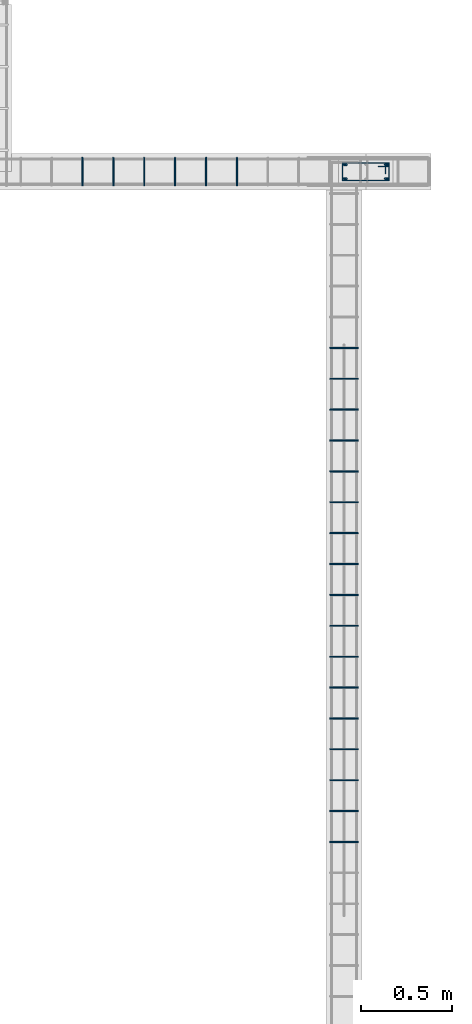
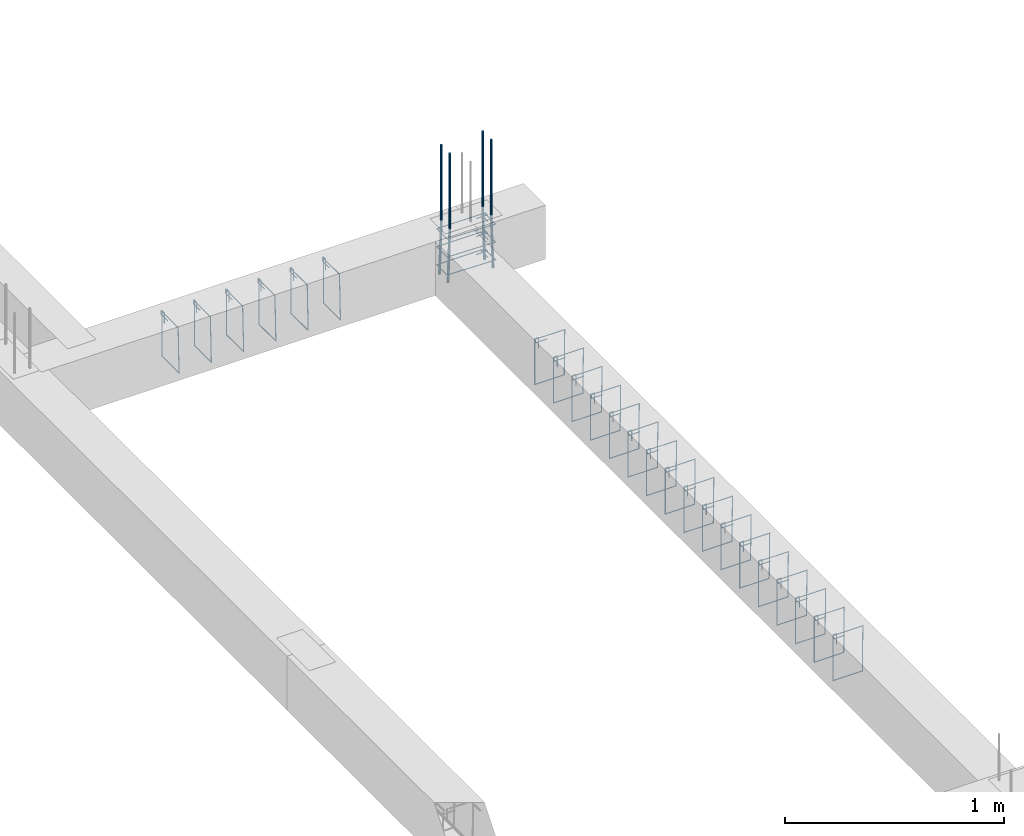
# One storey, part 145 of 150: 30 reinforcing bars.
"""IFC4 building model written with IfcOpenShell, lengths in centimetres."""

from ifc_helpers import new_model, entity, si_unit, derived_unit, frame, origin_with_axes, place, context, project, spatial, source, transform, mapped, element, save


model = new_model("IFC4")

# Units and contexts
model_context = context("Model", 3, precision=1e-05, world=origin_with_axes(), identifier="Body")
ifc_project = project(units=[si_unit("LENGTHUNIT", "METRE", prefix="CENTI"), si_unit("VOLUMEUNIT", "CUBIC_METRE"), si_unit("AREAUNIT", "SQUARE_METRE"), si_unit("POWERUNIT", "WATT"), si_unit("LUMINOUSFLUXUNIT", "LUMEN"), si_unit("ELECTRICCURRENTUNIT", "AMPERE"), si_unit("PRESSUREUNIT", "PASCAL", prefix="KILO"), si_unit("MASSUNIT", "GRAM", prefix="KILO"), si_unit("PLANEANGLEUNIT", "RADIAN"), derived_unit("VOLUMETRICFLOWRATEUNIT", [(si_unit("LENGTHUNIT", "METRE"), 3), (si_unit("TIMEUNIT", "SECOND"), -1)])], contexts=[model_context])

# Site, building, storey
site_placement = place(None, frame((-4000.0, 0.0, 0.0), z_axis=(0.0, 0.0, 1.0), x_axis=(1.0, 0.0, 0.0)))
site = spatial("IfcSite", under=ifc_project, at=site_placement, Name="PADRÃO")
building_placement = place(site_placement, frame((0.0, 0.0, -14.0)))
building = spatial("IfcBuilding", under=site, at=building_placement, Name="CRECHE PRÉ-ESCOLA TIPO 2")
placement = place(building_placement, origin_with_axes())
storey_placement = place(placement, frame((0.0, 0.0, 30.0), z_axis=(0.0, 0.0, 1.0), x_axis=(1.0, 0.0, 0.0)))
storey = spatial("IfcBuildingStorey", under=building, at=storey_placement, Name="VIGA BALDRAME", CompositionType="ELEMENT", Elevation=16.0)

# Reinforcing bars
shared_shape_1 = source(origin_with_axes(), model_context, "Body", "AdvancedSweptSolid", [
    entity("IfcSweptDiskSolid", entity("IfcCompositeCurve", [entity("IfcCompositeCurveSegment", "CONTINUOUS", True, entity("IfcPolyline", [entity("IfcCartesianPoint", [4.25, 21.75, 0.0]), entity("IfcCartesianPoint", [4.25, 27.75, 0.0])])), entity("IfcCompositeCurveSegment", "CONTINUOUS", True, entity("IfcPolyline", [entity("IfcCartesianPoint", [4.25, 27.75, 0.0]), entity("IfcCartesianPoint", [2.25, 27.75, 0.0])])), entity("IfcCompositeCurveSegment", "CONTINUOUS", True, entity("IfcPolyline", [entity("IfcCartesianPoint", [2.25, 27.75, 0.0]), entity("IfcCartesianPoint", [2.25, 2.25, 0.0])])), entity("IfcCompositeCurveSegment", "CONTINUOUS", True, entity("IfcPolyline", [entity("IfcCartesianPoint", [2.25, 2.25, 0.0]), entity("IfcCartesianPoint", [11.75, 2.25, 0.0])])), entity("IfcCompositeCurveSegment", "CONTINUOUS", True, entity("IfcPolyline", [entity("IfcCartesianPoint", [11.75, 2.25, 0.0]), entity("IfcCartesianPoint", [11.75, 27.75, -0.5])])), entity("IfcCompositeCurveSegment", "CONTINUOUS", True, entity("IfcPolyline", [entity("IfcCartesianPoint", [11.75, 27.75, -0.5]), entity("IfcCartesianPoint", [2.25, 27.75, -0.5])])), entity("IfcCompositeCurveSegment", "CONTINUOUS", True, entity("IfcPolyline", [entity("IfcCartesianPoint", [2.25, 27.75, -0.5]), entity("IfcCartesianPoint", [2.25, 25.75, -0.5])])), entity("IfcCompositeCurveSegment", "CONTINUOUS", True, entity("IfcPolyline", [entity("IfcCartesianPoint", [2.25, 25.75, -0.5]), entity("IfcCartesianPoint", [8.25, 25.75, -0.5])]))], False), 0.25),
])
for number, where, z_axis, x_axis, name in (
    (1, (3360.0, 3992.01, -15.0), (0.0, 0.0, 1.0), (0.0, -1.0, 0.0), "P28 - Estribo"),
    (2, (3360.0, 3992.01, -25.0), (0.0, 0.0, 1.0), (0.0, -1.0, 0.0), "P28 - Estribo"),
    (3, (3360.0, 3992.01, -5.0), (0.0, 0.0, 1.0), (0.0, -1.0, 0.0), "P28 - Estribo"),
):
    element("IfcReinforcingBar", number, at=place(storey_placement, frame(where, z_axis=z_axis, x_axis=x_axis)), inside=storey, Name=name, BarLength=0.0, CrossSectionArea=1.9634954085e-05, NominalDiameter=0.5, PredefinedType="MAIN", context=model_context, shape_type="MappedRepresentation", body=[
        mapped(shared_shape_1, transform((0.0, 0.0, 0.0), scale=1.0)),
    ])
shared_shape_2 = source(origin_with_axes(), model_context, "Body", "AdvancedSweptSolid", [
    entity("IfcSweptDiskSolid", entity("IfcCompositeCurve", [entity("IfcCompositeCurveSegment", "CONTINUOUS", True, entity("IfcPolyline", [entity("IfcCartesianPoint", [2.0, -6.0, 0.0]), entity("IfcCartesianPoint", [2.0, 0.0, 0.0])])), entity("IfcCompositeCurveSegment", "CONTINUOUS", True, entity("IfcPolyline", [entity("IfcCartesianPoint", [2.0, 0.0, 0.0]), entity("IfcCartesianPoint", [0.0, 0.0, 0.0])])), entity("IfcCompositeCurveSegment", "CONTINUOUS", True, entity("IfcPolyline", [entity("IfcCartesianPoint", [0.0, 0.0, 0.0]), entity("IfcCartesianPoint", [0.0, -25.5, 0.0])])), entity("IfcCompositeCurveSegment", "CONTINUOUS", True, entity("IfcPolyline", [entity("IfcCartesianPoint", [0.0, -25.5, 0.0]), entity("IfcCartesianPoint", [15.5, -25.5, 0.0])])), entity("IfcCompositeCurveSegment", "CONTINUOUS", True, entity("IfcPolyline", [entity("IfcCartesianPoint", [15.5, -25.5, 0.0]), entity("IfcCartesianPoint", [15.5, 0.0, 0.5])])), entity("IfcCompositeCurveSegment", "CONTINUOUS", True, entity("IfcPolyline", [entity("IfcCartesianPoint", [15.5, 0.0, 0.5]), entity("IfcCartesianPoint", [0.0, 0.0, 0.5])])), entity("IfcCompositeCurveSegment", "CONTINUOUS", True, entity("IfcPolyline", [entity("IfcCartesianPoint", [0.0, 0.0, 0.5]), entity("IfcCartesianPoint", [0.0, -2.0, 0.5])])), entity("IfcCompositeCurveSegment", "CONTINUOUS", True, entity("IfcPolyline", [entity("IfcCartesianPoint", [0.0, -2.0, 0.5]), entity("IfcCartesianPoint", [6.0, -2.0, 0.5])]))], False), 0.25),
])
for number, where, z_axis, x_axis, name in (
    (4, (3304.25, 3992.76, -2.25), (-1.0, 0.0, 0.0), (0.0, -1.0, 0.0), "V107 - Estribo"),
    (5, (3287.25, 3992.76, -2.25), (-1.0, 0.0, 0.0), (0.0, -1.0, 0.0), "V107 - Estribo"),
    (6, (3270.25, 3992.76, -2.25), (-1.0, 0.0, 0.0), (0.0, -1.0, 0.0), "V107 - Estribo"),
    (7, (3253.25, 3992.76, -2.25), (-1.0, 0.0, 0.0), (0.0, -1.0, 0.0), "V107 - Estribo"),
    (8, (3236.25, 3992.76, -2.25), (-1.0, 0.0, 0.0), (0.0, -1.0, 0.0), "V107 - Estribo"),
    (9, (3219.25, 3992.76, -2.25), (-1.0, 0.0, 0.0), (0.0, -1.0, 0.0), "V107 - Estribo"),
):
    element("IfcReinforcingBar", number, at=place(storey_placement, frame(where, z_axis=z_axis, x_axis=x_axis)), inside=storey, Name=name, BarLength=0.0, CrossSectionArea=1.9634954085e-05, NominalDiameter=0.5, PredefinedType="MAIN", context=model_context, shape_type="MappedRepresentation", body=[
        mapped(shared_shape_2, transform((0.0, 0.0, 0.0), scale=1.0)),
    ])
shared_shape_3 = source(origin_with_axes(), model_context, "Body", "AdvancedSweptSolid", [
    entity("IfcSweptDiskSolid", entity("IfcCompositeCurve", [entity("IfcCompositeCurveSegment", "CONTINUOUS", True, entity("IfcPolyline", [entity("IfcCartesianPoint", [2.0, -6.0, 0.0]), entity("IfcCartesianPoint", [2.0, 0.0, 0.0])])), entity("IfcCompositeCurveSegment", "CONTINUOUS", True, entity("IfcPolyline", [entity("IfcCartesianPoint", [2.0, 0.0, 0.0]), entity("IfcCartesianPoint", [0.0, 0.0, 0.0])])), entity("IfcCompositeCurveSegment", "CONTINUOUS", True, entity("IfcPolyline", [entity("IfcCartesianPoint", [0.0, 0.0, 0.0]), entity("IfcCartesianPoint", [0.0, -25.5, 0.0])])), entity("IfcCompositeCurveSegment", "CONTINUOUS", True, entity("IfcPolyline", [entity("IfcCartesianPoint", [0.0, -25.5, 0.0]), entity("IfcCartesianPoint", [15.5, -25.5, 0.0])])), entity("IfcCompositeCurveSegment", "CONTINUOUS", True, entity("IfcPolyline", [entity("IfcCartesianPoint", [15.5, -25.5, 0.0]), entity("IfcCartesianPoint", [15.5, 0.0, 0.5])])), entity("IfcCompositeCurveSegment", "CONTINUOUS", True, entity("IfcPolyline", [entity("IfcCartesianPoint", [15.5, 0.0, 0.5]), entity("IfcCartesianPoint", [0.0, 0.0, 0.5])])), entity("IfcCompositeCurveSegment", "CONTINUOUS", True, entity("IfcPolyline", [entity("IfcCartesianPoint", [0.0, 0.0, 0.5]), entity("IfcCartesianPoint", [0.0, -2.0, 0.5])])), entity("IfcCompositeCurveSegment", "CONTINUOUS", True, entity("IfcPolyline", [entity("IfcCartesianPoint", [0.0, -2.0, 0.5]), entity("IfcCartesianPoint", [6.0, -2.0, 0.5])]))], False), 0.25),
])
for number, where, z_axis, x_axis, name in (
    (10, (3355.25, 3616.265, -2.25), (0.0, -1.0, 0.0), (1.0, 0.0, 0.0), "V229 - Estribo"),
    (11, (3355.25, 3718.265, -2.25), (0.0, -1.0, 0.0), (1.0, 0.0, 0.0), "V229 - Estribo"),
    (12, (3355.25, 3633.265, -2.25), (0.0, -1.0, 0.0), (1.0, 0.0, 0.0), "V229 - Estribo"),
    (13, (3355.25, 3650.265, -2.25), (0.0, -1.0, 0.0), (1.0, 0.0, 0.0), "V229 - Estribo"),
    (14, (3355.25, 3667.265, -2.25), (0.0, -1.0, 0.0), (1.0, 0.0, 0.0), "V229 - Estribo"),
    (15, (3355.25, 3684.265, -2.25), (0.0, -1.0, 0.0), (1.0, 0.0, 0.0), "V229 - Estribo"),
    (16, (3355.25, 3701.265, -2.25), (0.0, -1.0, 0.0), (1.0, 0.0, 0.0), "V229 - Estribo"),
    (17, (3355.25, 3735.265, -2.25), (0.0, -1.0, 0.0), (1.0, 0.0, 0.0), "V229 - Estribo"),
    (18, (3355.25, 3752.265, -2.25), (0.0, -1.0, 0.0), (1.0, 0.0, 0.0), "V229 - Estribo"),
    (19, (3355.25, 3769.265, -2.25), (0.0, -1.0, 0.0), (1.0, 0.0, 0.0), "V229 - Estribo"),
    (20, (3355.25, 3786.265, -2.25), (0.0, -1.0, 0.0), (1.0, 0.0, 0.0), "V229 - Estribo"),
    (21, (3355.25, 3803.265, -2.25), (0.0, -1.0, 0.0), (1.0, 0.0, 0.0), "V229 - Estribo"),
    (22, (3355.25, 3820.265, -2.25), (0.0, -1.0, 0.0), (1.0, 0.0, 0.0), "V229 - Estribo"),
    (23, (3355.25, 3837.265, -2.25), (0.0, -1.0, 0.0), (1.0, 0.0, 0.0), "V229 - Estribo"),
    (24, (3355.25, 3854.265, -2.25), (0.0, -1.0, 0.0), (1.0, 0.0, 0.0), "V229 - Estribo"),
    (25, (3355.25, 3871.265, -2.25), (0.0, -1.0, 0.0), (1.0, 0.0, 0.0), "V229 - Estribo"),
    (26, (3355.25, 3888.265, -2.25), (0.0, -1.0, 0.0), (1.0, 0.0, 0.0), "V229 - Estribo"),
):
    element("IfcReinforcingBar", number, at=place(storey_placement, frame(where, z_axis=z_axis, x_axis=x_axis)), inside=storey, Name=name, BarLength=0.0, CrossSectionArea=1.9634954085e-05, NominalDiameter=0.5, PredefinedType="MAIN", context=model_context, shape_type="MappedRepresentation", body=[
        mapped(shared_shape_3, transform((0.0, 0.0, 0.0), scale=1.0)),
    ])
for number, where, z_axis, x_axis, name in (
    (27, (3363.62517346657, 3988.885, 41.6966251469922), (0.0, 0.0, 1.0), (1.0, 0.0, 0.0), "P28 - Longitudinal"),
    (28, (3363.62517346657, 3981.135, 41.6966251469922), (0.0, 0.0, 1.0), (1.0, 0.0, 0.0), "P28 - Longitudinal"),
):
    element("IfcReinforcingBar", number, at=place(storey_placement, frame(where, z_axis=z_axis, x_axis=x_axis)), inside=storey, Name=name, BarLength=0.0, CrossSectionArea=0.000122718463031, NominalDiameter=1.25, PredefinedType="MAIN", context=model_context, shape_type="AdvancedSweptSolid", body=[
        entity("IfcSweptDiskSolid", entity("IfcCompositeCurve", [entity("IfcCompositeCurveSegment", "CONTINUOUS", True, entity("IfcPolyline", [entity("IfcCartesianPoint", [-0.500173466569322, 0.0, -71.6966251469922]), entity("IfcCartesianPoint", [0.499826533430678, 0.0, -41.6966251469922])])), entity("IfcCompositeCurveSegment", "CONTINUOUS", True, entity("IfcPolyline", [entity("IfcCartesianPoint", [0.499826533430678, 0.0, -41.6966251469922]), entity("IfcCartesianPoint", [0.499826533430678, 0.0, 0.0])]))], False), 0.625),
    ])
for number, where, z_axis, x_axis, name in (
    (29, (3386.37482653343, 3981.135, 41.6966251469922), (0.0, 0.0, 1.0), (1.0, 0.0, 0.0), "P28 - Longitudinal"),
    (30, (3386.37482653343, 3988.885, 41.6966251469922), (0.0, 0.0, 1.0), (1.0, 0.0, 0.0), "P28 - Longitudinal"),
):
    element("IfcReinforcingBar", number, at=place(storey_placement, frame(where, z_axis=z_axis, x_axis=x_axis)), inside=storey, Name=name, BarLength=0.0, CrossSectionArea=0.000122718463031, NominalDiameter=1.25, PredefinedType="MAIN", context=model_context, shape_type="AdvancedSweptSolid", body=[
        entity("IfcSweptDiskSolid", entity("IfcCompositeCurve", [entity("IfcCompositeCurveSegment", "CONTINUOUS", True, entity("IfcPolyline", [entity("IfcCartesianPoint", [0.500173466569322, 0.0, -71.6966251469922]), entity("IfcCartesianPoint", [-0.499826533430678, 0.0, -41.6966251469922])])), entity("IfcCompositeCurveSegment", "CONTINUOUS", True, entity("IfcPolyline", [entity("IfcCartesianPoint", [-0.499826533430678, 0.0, -41.6966251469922]), entity("IfcCartesianPoint", [-0.499826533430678, 0.0, 0.0])]))], False), 0.625),
    ])

save(model, "model.ifc")
